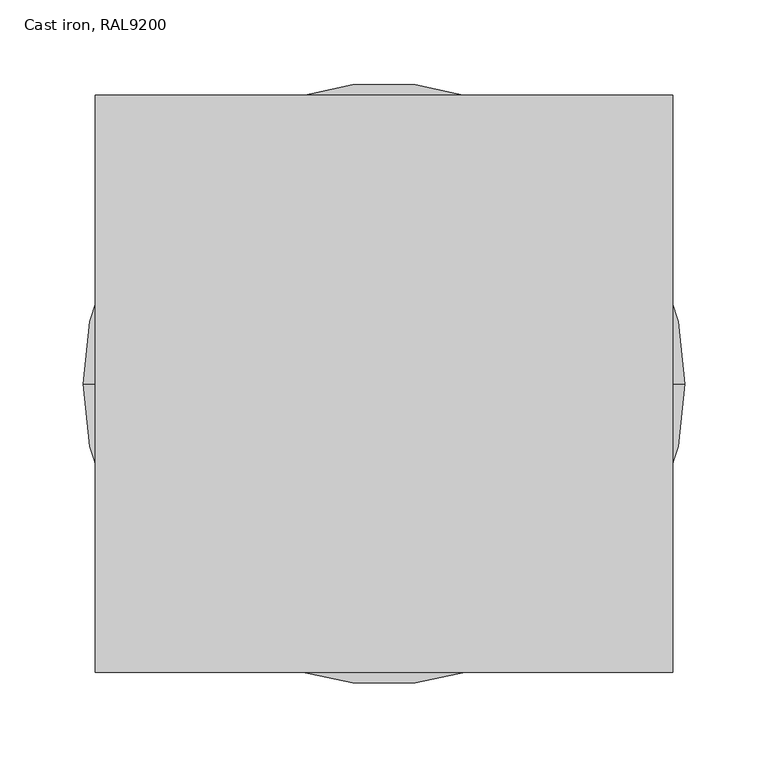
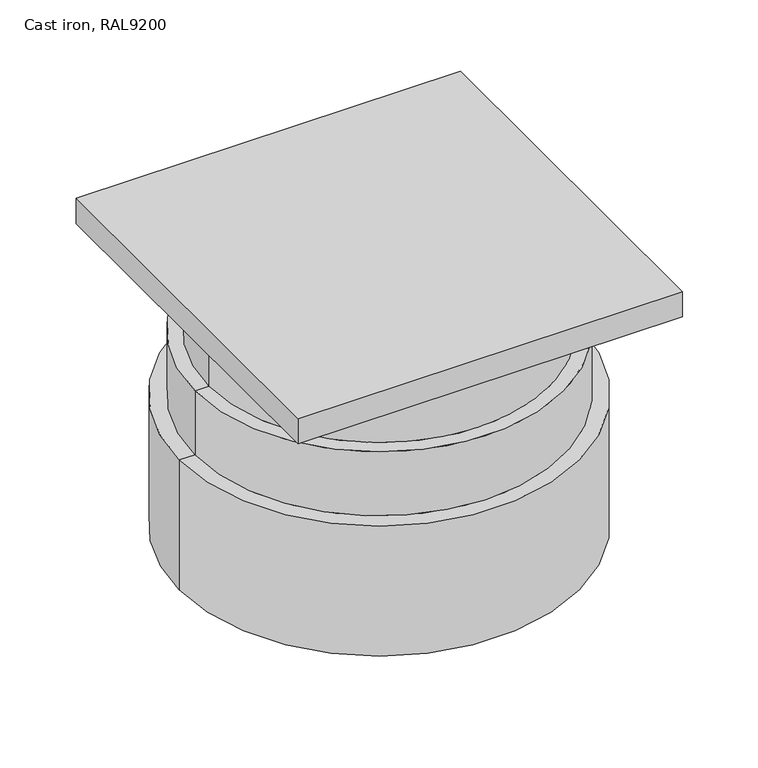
"""IFC4 building model written with IfcOpenShell, lengths in millimetres: pipe fitting geometry, Wavin_PipeFitting_QBicPlusZDoNotUseCover300 : Cast iron, RAL9200."""

from ifc_helpers import new_model, si_unit, frame, origin, place, context, project, spatial, polyline, circle_curve, source, transform, mapped, element, save
from ifc_brep_helpers import plane_surface, cylinder_surface, revolved_surface, advanced_brep


def cast_iron_ral9200_6ea693ea(model_context):
    return source(origin(), model_context, "Body", "AdvancedBrep", [
        advanced_brep(
        [(166.5, 0.0, -81.0), (-166.5, 0.0, -81.0), (-154.0, 0.0, -81.0), (154.0, 0.0, -81.0), (166.5, 0.0, -142.0), (-166.5, 0.0, -142.0), (180.6, 0.0, -142.0), (-180.6, 0.0, -142.0), (180.6, 0.0, -266.0), (-180.6, 0.0, -266.0), (177.1, 0.0, -266.0), (-177.1, 0.0, -266.0), (177.1, 0.0, -162.0), (-177.1, 0.0, -162.0), (163.0, 0.0, -162.0), (-163.0, 0.0, -162.0), (163.0, 0.0, -106.0), (-163.0, 0.0, -106.0), (150.5, 0.0, -106.0), (-150.5, 0.0, -106.0), (150.5, 0.0, -24.0), (-150.5, 0.0, -24.0), (-154.0, 0.0, -24.0), (154.0, 0.0, -24.0), (173.5, 173.5, -24.0), (173.5, -173.5, -24.0), (-173.5, -173.5, -24.0), (-173.5, 173.5, -24.0), (173.5, 173.5, 0.0), (-173.5, 173.5, 0.0), (-173.5, -173.5, 0.0), (173.5, -173.5, 0.0)],
        [
            (0, 1, circle_curve(frame((0.0, 0.0, -81.0), z_axis=(0.0, 0.0, 1.0), x_axis=(-1.0, 0.0, 0.0)), 166.5)),
            (1, 2),
            (2, 3, circle_curve(frame((0.0, 0.0, -81.0), z_axis=(0.0, 0.0, -1.0), x_axis=(-1.0, 0.0, 0.0)), 154.0)),
            (3, 0),
            (1, 0, circle_curve(frame((0.0, 0.0, -81.0), z_axis=(0.0, 0.0, 1.0), x_axis=(-1.0, 0.0, 0.0)), 166.5)),
            (3, 2, circle_curve(frame((0.0, 0.0, -81.0), z_axis=(0.0, 0.0, -1.0), x_axis=(-1.0, 0.0, 0.0)), 154.0)),
            (0, 4),
            (4, 5, circle_curve(frame((0.0, 0.0, -142.0), z_axis=(0.0, 0.0, 1.0), x_axis=(-1.0, 0.0, 0.0)), 166.5)),
            (5, 1),
            (5, 4, circle_curve(frame((0.0, 0.0, -142.0), z_axis=(0.0, 0.0, 1.0), x_axis=(-1.0, 0.0, 0.0)), 166.5)),
            (4, 6),
            (6, 7, circle_curve(frame((0.0, 0.0, -142.0), z_axis=(0.0, 0.0, 1.0), x_axis=(-1.0, 0.0, 0.0)), 180.6)),
            (7, 5),
            (7, 6, circle_curve(frame((0.0, 0.0, -142.0), z_axis=(0.0, 0.0, 1.0), x_axis=(-1.0, 0.0, 0.0)), 180.6)),
            (6, 8),
            (8, 9, circle_curve(frame((0.0, 0.0, -266.0), z_axis=(0.0, 0.0, 1.0), x_axis=(-1.0, 0.0, 0.0)), 180.6)),
            (9, 7),
            (9, 8, circle_curve(frame((0.0, 0.0, -266.0), z_axis=(0.0, 0.0, 1.0), x_axis=(-1.0, 0.0, 0.0)), 180.6)),
            (8, 10),
            (10, 11, circle_curve(frame((0.0, 0.0, -266.0), z_axis=(0.0, 0.0, 1.0), x_axis=(-1.0, 0.0, 0.0)), 177.1)),
            (11, 9),
            (11, 10, circle_curve(frame((0.0, 0.0, -266.0), z_axis=(0.0, 0.0, 1.0), x_axis=(-1.0, 0.0, 0.0)), 177.1)),
            (10, 12),
            (12, 13, circle_curve(frame((0.0, 0.0, -162.0), z_axis=(0.0, 0.0, 1.0), x_axis=(-1.0, 0.0, 0.0)), 177.1)),
            (13, 11),
            (13, 12, circle_curve(frame((0.0, 0.0, -162.0), z_axis=(0.0, 0.0, 1.0), x_axis=(-1.0, 0.0, 0.0)), 177.1)),
            (12, 14),
            (14, 15, circle_curve(frame((0.0, 0.0, -162.0), z_axis=(0.0, 0.0, 1.0), x_axis=(-1.0, 0.0, 0.0)), 163.0)),
            (15, 13),
            (15, 14, circle_curve(frame((0.0, 0.0, -162.0), z_axis=(0.0, 0.0, 1.0), x_axis=(-1.0, 0.0, 0.0)), 163.0)),
            (14, 16),
            (16, 17, circle_curve(frame((0.0, 0.0, -106.0), z_axis=(0.0, 0.0, 1.0), x_axis=(-1.0, 0.0, 0.0)), 163.0)),
            (17, 15),
            (17, 16, circle_curve(frame((0.0, 0.0, -106.0), z_axis=(0.0, 0.0, 1.0), x_axis=(-1.0, 0.0, 0.0)), 163.0)),
            (16, 18),
            (18, 19, circle_curve(frame((0.0, 0.0, -106.0), z_axis=(0.0, 0.0, 1.0), x_axis=(-1.0, 0.0, 0.0)), 150.5)),
            (19, 17),
            (19, 18, circle_curve(frame((0.0, 0.0, -106.0), z_axis=(0.0, 0.0, 1.0), x_axis=(-1.0, 0.0, 0.0)), 150.5)),
            (18, 20),
            (20, 21, circle_curve(frame((0.0, 0.0, -24.0), z_axis=(0.0, 0.0, 1.0), x_axis=(-1.0, 0.0, 0.0)), 150.5)),
            (21, 19),
            (21, 20, circle_curve(frame((0.0, 0.0, -24.0), z_axis=(0.0, 0.0, 1.0), x_axis=(-1.0, 0.0, 0.0)), 150.5)),
            (2, 22),
            (22, 23, circle_curve(frame((0.0, 0.0, -24.0), z_axis=(0.0, 0.0, -1.0), x_axis=(-1.0, 0.0, 0.0)), 154.0)),
            (23, 3),
            (23, 22, circle_curve(frame((0.0, 0.0, -24.0), z_axis=(0.0, 0.0, -1.0), x_axis=(-1.0, 0.0, 0.0)), 154.0)),
            (24, 25),
            (25, 26),
            (26, 27),
            (27, 24),
            (28, 29),
            (29, 30),
            (30, 31),
            (31, 28),
            (27, 29),
            (28, 24),
            (26, 30),
            (25, 31),
        ],
        [
            plane_surface(frame((0.0, 0.0, -81.0), z_axis=(0.0, 0.0, 1.0), x_axis=(-1.0, 0.0, 0.0))),
            cylinder_surface(frame((0.0, 0.0, -307.0), z_axis=(0.0, 0.0, -1.0), x_axis=(-1.0, 0.0, 0.0)), 166.5),
            plane_surface(frame((0.0, 0.0, -142.0), z_axis=(0.0, 0.0, 1.0), x_axis=(-1.0, 0.0, 0.0))),
            cylinder_surface(frame((0.0, 0.0, -307.0), z_axis=(0.0, 0.0, -1.0), x_axis=(-1.0, 0.0, 0.0)), 180.6),
            plane_surface(frame((0.0, 0.0, -266.0), z_axis=(0.0, 0.0, -1.0), x_axis=(-1.0, 0.0, 0.0))),
            revolved_surface(polyline([(-177.1, 0.0, -266.0), (-177.1, 0.0, -162.0)]), (0.0, 0.0, -307.0), (0.0, 0.0, -1.0)),
            plane_surface(frame((0.0, 0.0, -162.0), z_axis=(0.0, 0.0, -1.0), x_axis=(-1.0, 0.0, 0.0))),
            revolved_surface(polyline([(-163.0, 0.0, -162.0), (-163.0, 0.0, -106.0)]), (0.0, 0.0, -307.0), (0.0, 0.0, -1.0)),
            plane_surface(frame((0.0, 0.0, -106.0), z_axis=(0.0, 0.0, -1.0), x_axis=(-1.0, 0.0, 0.0))),
            revolved_surface(polyline([(-150.5, 0.0, -106.0), (-150.5, 0.0, -24.0)]), (0.0, 0.0, -307.0), (0.0, 0.0, -1.0)),
            cylinder_surface(frame((0.0, 0.0, -307.0), z_axis=(0.0, 0.0, -1.0), x_axis=(-1.0, 0.0, 0.0)), 154.0),
            plane_surface(frame((-173.5, 173.5, -24.0), z_axis=(0.0, 0.0, -1.0), x_axis=(1.0, 0.0, 0.0))),
            plane_surface(frame((-173.5, 173.5, 0.0), z_axis=(0.0, 0.0, 1.0), x_axis=(-1.0, 0.0, 0.0))),
            plane_surface(frame((173.5, 173.5, 0.0), z_axis=(0.0, 1.0, 0.0), x_axis=(0.0, 0.0, -1.0))),
            plane_surface(frame((-173.5, 173.5, 0.0), z_axis=(-1.0, 0.0, 0.0), x_axis=(0.0, 0.0, -1.0))),
            plane_surface(frame((-173.5, -173.5, 0.0), z_axis=(0.0, -1.0, 0.0), x_axis=(0.0, 0.0, -1.0))),
            plane_surface(frame((173.5, -173.5, 0.0), z_axis=(1.0, 0.0, 0.0), x_axis=(0.0, 0.0, -1.0))),
        ],
        [
            (0, [[1, 2, 3, 4]]),
            (0, [[-2, 5, -4, 6]]),
            (1, [[-1, 7, 8, 9]]),
            (1, [[-5, -9, 10, -7]]),
            (2, [[-8, 11, 12, 13]]),
            (2, [[-10, -13, 14, -11]]),
            (3, [[-12, 15, 16, 17]]),
            (3, [[-14, -17, 18, -15]]),
            (4, [[-16, 19, 20, 21]]),
            (4, [[-18, -21, 22, -19]]),
            (5, [[-20, 23, 24, 25]]),
            (5, [[-22, -25, 26, -23]]),
            (6, [[-24, 27, 28, 29]]),
            (6, [[-26, -29, 30, -27]]),
            (7, [[-28, 31, 32, 33]]),
            (7, [[-30, -33, 34, -31]]),
            (8, [[-32, 35, 36, 37]]),
            (8, [[-34, -37, 38, -35]]),
            (9, [[-36, 39, 40, 41]]),
            (9, [[-38, -41, 42, -39]]),
            (10, [[-3, 43, 44, 45]]),
            (10, [[-6, -45, 46, -43]]),
            (11, [[-40, -42]]),
            (11, [[47, 48, 49, 50], [-44, -46]]),
            (12, [[51, 52, 53, 54]]),
            (13, [[-50, 55, -51, 56]]),
            (14, [[-49, 57, -52, -55]]),
            (15, [[-48, 58, -53, -57]]),
            (16, [[-47, -56, -54, -58]]),
        ],
    ),
    ])


if __name__ == "__main__":
    model = new_model("IFC4")
    model_context = context("Model", 3, world=origin())
    ifc_project = project(units=[si_unit("LENGTHUNIT", "METRE", prefix="MILLI")], contexts=[model_context])
    site = spatial("IfcSite", under=ifc_project)
    building = spatial("IfcBuilding", under=site)
    placement = place(None, origin())
    cast_iron_ral9200_shape = cast_iron_ral9200_6ea693ea(model_context)
    element("IfcPipeFitting", 1, ObjectType="Wavin_PipeFitting_QBicPlusZDoNotUseCover300 : Cast iron, RAL9200", at=placement, inside=building, context=model_context, shape_type="MappedRepresentation", body=[
        mapped(cast_iron_ral9200_shape, transform((0.0, 0.0, 0.0), x_axis=(1.0, 0.0, 0.0), y_axis=(0.0, 1.0, 0.0), z_axis=(0.0, 0.0, 1.0))),
    ])
    save(model, "model.ifc")
